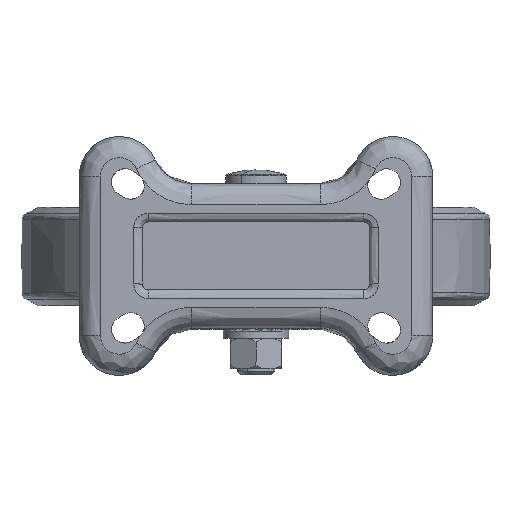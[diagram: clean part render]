
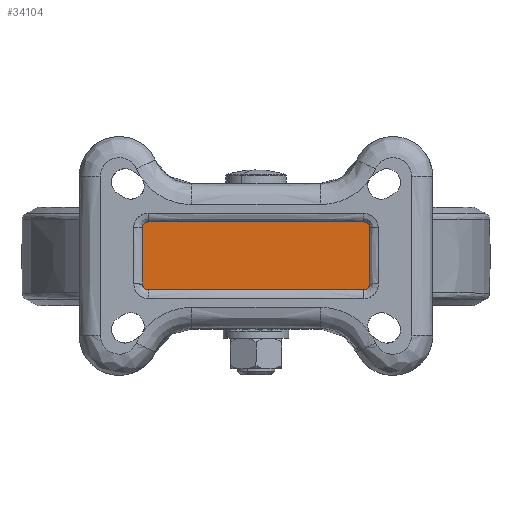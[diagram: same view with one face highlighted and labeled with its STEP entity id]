
A CAD part, top view. The second image highlights one B-rep face of the part: STEP entity #34104.
In plain terms, the highlighted planar face has unit normal (0, 0, 1).
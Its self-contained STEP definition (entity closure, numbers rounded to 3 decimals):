
#11374 = CARTESIAN_POINT ( 'NONE',  ( -46., -14.5, -2. ) ) ;
#11380 = CARTESIAN_POINT ( 'NONE',  ( 46., 14.5, -2. ) ) ;
#11419 = CARTESIAN_POINT ( 'NONE',  ( 48.5, -12., -2. ) ) ;
#11447 = CARTESIAN_POINT ( 'NONE',  ( -48.5, 12., -2. ) ) ;
#11510 = CARTESIAN_POINT ( 'NONE',  ( 46., -14.5, -2. ) ) ;
#11532 = CARTESIAN_POINT ( 'NONE',  ( -48.5, -12., -2. ) ) ;
#12879 = EDGE_LOOP ( 'NONE', ( #54124, #54125, #54126, #54127, #54128, #54129, #54130, #54131 ) ) ;
#14020 = CARTESIAN_POINT ( 'NONE',  ( -48.5, -14.5, -2. ) ) ;
#14029 = CARTESIAN_POINT ( 'NONE',  ( -48.5, 14.5, -2. ) ) ;
#14030 = DIRECTION ( 'NONE',  ( -1., 0., 0. ) ) ;
#14031 = DIRECTION ( 'NONE',  ( 1., 0., 0. ) ) ;
#14045 = CARTESIAN_POINT ( 'NONE',  ( -46., 14.5, -2. ) ) ;
#14050 = CARTESIAN_POINT ( 'NONE',  ( -46.658, 14.5, -2. ) ) ;
#14051 = CARTESIAN_POINT ( 'NONE',  ( -47.306, 14.229, -2. ) ) ;
#14052 = CARTESIAN_POINT ( 'NONE',  ( -47.768, 13.768, -2. ) ) ;
#14053 = CARTESIAN_POINT ( 'NONE',  ( -48.229, 13.306, -2. ) ) ;
#14054 = CARTESIAN_POINT ( 'NONE',  ( -48.5, 12.658, -2. ) ) ;
#14055 = CARTESIAN_POINT ( 'NONE',  ( -48.5, 12., -2. ) ) ;
#14091 = CARTESIAN_POINT ( 'NONE',  ( 48.5, 14.5, -2. ) ) ;
#14095 = DIRECTION ( 'NONE',  ( 0., 1., 0. ) ) ;
#14121 = CARTESIAN_POINT ( 'NONE',  ( -46., -14.5, -2. ) ) ;
#14129 = CARTESIAN_POINT ( 'NONE',  ( -46.658, -14.5, -2. ) ) ;
#14130 = CARTESIAN_POINT ( 'NONE',  ( -47.306, -14.229, -2. ) ) ;
#14131 = CARTESIAN_POINT ( 'NONE',  ( -47.768, -13.768, -2. ) ) ;
#14132 = CARTESIAN_POINT ( 'NONE',  ( -48.229, -13.306, -2. ) ) ;
#14133 = CARTESIAN_POINT ( 'NONE',  ( -48.5, -12.658, -2. ) ) ;
#14134 = CARTESIAN_POINT ( 'NONE',  ( -48.5, -12., -2. ) ) ;
#14172 = CARTESIAN_POINT ( 'NONE',  ( -48.5, 14.5, -2. ) ) ;
#14173 = DIRECTION ( 'NONE',  ( 0., -1., 0. ) ) ;
#14174 = CARTESIAN_POINT ( 'NONE',  ( 48.5, 12., -2. ) ) ;
#14179 = CARTESIAN_POINT ( 'NONE',  ( 48.5, 12.658, -2. ) ) ;
#14180 = CARTESIAN_POINT ( 'NONE',  ( 48.229, 13.306, -2. ) ) ;
#14181 = CARTESIAN_POINT ( 'NONE',  ( 47.768, 13.768, -2. ) ) ;
#14182 = CARTESIAN_POINT ( 'NONE',  ( 47.306, 14.229, -2. ) ) ;
#14183 = CARTESIAN_POINT ( 'NONE',  ( 46.658, 14.5, -2. ) ) ;
#14184 = CARTESIAN_POINT ( 'NONE',  ( 46., 14.5, -2. ) ) ;
#14543 = CARTESIAN_POINT ( 'NONE',  ( 46., -14.5, -2. ) ) ;
#14548 = CARTESIAN_POINT ( 'NONE',  ( 46.658, -14.5, -2. ) ) ;
#14549 = CARTESIAN_POINT ( 'NONE',  ( 47.306, -14.229, -2. ) ) ;
#14550 = CARTESIAN_POINT ( 'NONE',  ( 47.768, -13.768, -2. ) ) ;
#14551 = CARTESIAN_POINT ( 'NONE',  ( 48.229, -13.306, -2. ) ) ;
#14552 = CARTESIAN_POINT ( 'NONE',  ( 48.5, -12.658, -2. ) ) ;
#14553 = CARTESIAN_POINT ( 'NONE',  ( 48.5, -12., -2. ) ) ;
#15164 = CARTESIAN_POINT ( 'NONE',  ( 48.5, 12., -2. ) ) ;
#19392 = B_SPLINE_CURVE_WITH_KNOTS ( 'NONE', 3,
 ( #14174, #14179, #14180, #14181, #14182, #14183, #14184 ),
 .UNSPECIFIED., .F., .F.,
 ( 4, 3, 4 ),
 ( -0.003, -0.001, 0.001 ),
 .UNSPECIFIED. ) ;
#19449 = B_SPLINE_CURVE_WITH_KNOTS ( 'NONE', 3,
 ( #14543, #14548, #14549, #14550, #14551, #14552, #14553 ),
 .UNSPECIFIED., .F., .F.,
 ( 4, 3, 4 ),
 ( -0.003, -0.001, 0.001 ),
 .UNSPECIFIED. ) ;
#31516 = VERTEX_POINT ( 'NONE', #49752 ) ;
#31556 = B_SPLINE_CURVE_WITH_KNOTS ( 'NONE', 3,
 ( #14121, #14129, #14130, #14131, #14132, #14133, #14134 ),
 .UNSPECIFIED., .F., .F.,
 ( 4, 3, 4 ),
 ( -0.003, -0.001, 0.001 ),
 .UNSPECIFIED. ) ;
#34104 = ADVANCED_FACE ( 'NONE', ( #52317 ), #40104, .T. ) ;
#34995 = VERTEX_POINT ( 'NONE', #11374 ) ;
#35006 = VERTEX_POINT ( 'NONE', #11380 ) ;
#35080 = VERTEX_POINT ( 'NONE', #11419 ) ;
#35135 = VERTEX_POINT ( 'NONE', #11447 ) ;
#35256 = VERTEX_POINT ( 'NONE', #11510 ) ;
#35296 = VERTEX_POINT ( 'NONE', #11532 ) ;
#38336 = EDGE_CURVE ( 'NONE', #35006, #31516, #47986, .T. ) ;
#38338 = EDGE_CURVE ( 'NONE', #34995, #35256, #47979, .T. ) ;
#38350 = EDGE_CURVE ( 'NONE', #31516, #35135, #44131, .T. ) ;
#38367 = EDGE_CURVE ( 'NONE', #35080, #47437, #47990, .T. ) ;
#38386 = EDGE_CURVE ( 'NONE', #34995, #35296, #31556, .T. ) ;
#38403 = EDGE_CURVE ( 'NONE', #35135, #35296, #48002, .T. ) ;
#38407 = EDGE_CURVE ( 'NONE', #47437, #35006, #19392, .T. ) ;
#38579 = EDGE_CURVE ( 'NONE', #35256, #35080, #19449, .T. ) ;
#39963 = CARTESIAN_POINT ( 'NONE',  ( -48.5, 14.5, -2. ) ) ;
#40104 = PLANE ( 'NONE',  #57250 ) ;
#40106 = DIRECTION ( 'NONE',  ( 0., 0., 1. ) ) ;
#40107 = DIRECTION ( 'NONE',  ( 0., -1., 0. ) ) ;
#44131 = B_SPLINE_CURVE_WITH_KNOTS ( 'NONE', 3,
 ( #14045, #14050, #14051, #14052, #14053, #14054, #14055 ),
 .UNSPECIFIED., .F., .F.,
 ( 4, 3, 4 ),
 ( -0.003, -0.001, 0.001 ),
 .UNSPECIFIED. ) ;
#47437 = VERTEX_POINT ( 'NONE', #15164 ) ;
#47972 = VECTOR ( 'NONE', #14030, 1000. ) ;
#47979 = LINE ( 'NONE', #14020, #47988 ) ;
#47986 = LINE ( 'NONE', #14029, #47972 ) ;
#47988 = VECTOR ( 'NONE', #14031, 1000. ) ;
#47990 = LINE ( 'NONE', #14091, #47994 ) ;
#47994 = VECTOR ( 'NONE', #14095, 1000. ) ;
#47998 = VECTOR ( 'NONE', #14173, 1000. ) ;
#48002 = LINE ( 'NONE', #14172, #47998 ) ;
#49752 = CARTESIAN_POINT ( 'NONE',  ( -46., 14.5, -2. ) ) ;
#52317 = FACE_OUTER_BOUND ( 'NONE', #12879, .T. ) ;
#54124 = ORIENTED_EDGE ( 'NONE', *, *, #38336, .T. ) ;
#54125 = ORIENTED_EDGE ( 'NONE', *, *, #38350, .T. ) ;
#54126 = ORIENTED_EDGE ( 'NONE', *, *, #38403, .T. ) ;
#54127 = ORIENTED_EDGE ( 'NONE', *, *, #38386, .F. ) ;
#54128 = ORIENTED_EDGE ( 'NONE', *, *, #38338, .T. ) ;
#54129 = ORIENTED_EDGE ( 'NONE', *, *, #38579, .T. ) ;
#54130 = ORIENTED_EDGE ( 'NONE', *, *, #38367, .T. ) ;
#54131 = ORIENTED_EDGE ( 'NONE', *, *, #38407, .T. ) ;
#57250 = AXIS2_PLACEMENT_3D ( 'NONE', #39963, #40106, #40107 ) ;
